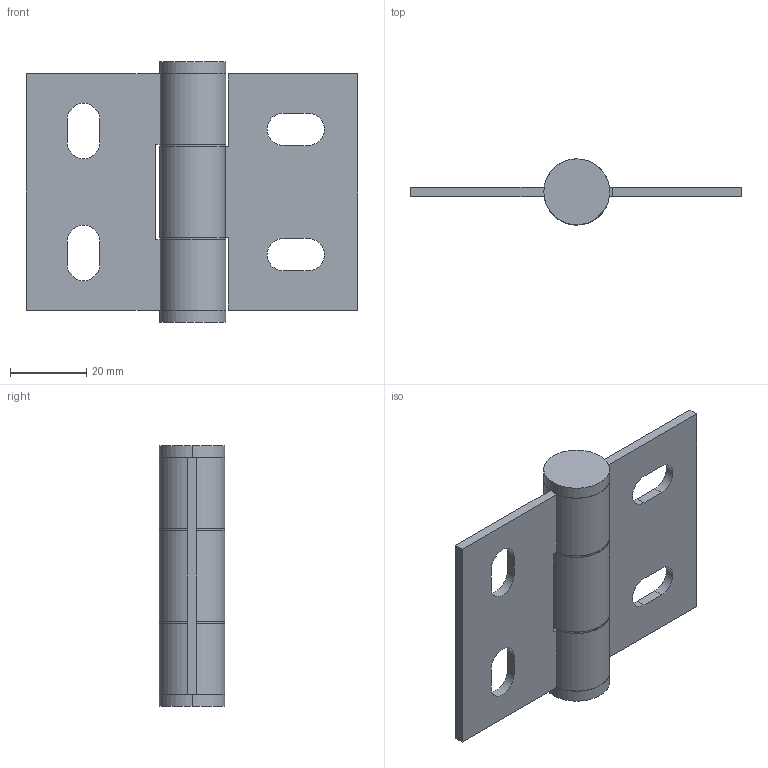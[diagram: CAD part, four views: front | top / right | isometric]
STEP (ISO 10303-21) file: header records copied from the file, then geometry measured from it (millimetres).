
FILE_DESCRIPTION (( 'STEP AP203' ), '1' );
FILE_NAME ('XG02-208.STEP', '2025-06-24T01:23:32', ( '微软用户' ), ( '微软中国' ), 'SwSTEP 2.0', 'SolidWorks 2024', '' );
FILE_SCHEMA (( 'CONFIG_CONTROL_DESIGN' ));
Length unit declared in the file: millimetre
Products named in the file (5): XG02-208; XG02-208PART2; XG02-208PART4; XG02-208PART1; XG02-208PART3
Assembly tree (5 placements, depth 2):
  XG02-208
    XG02-208PART1
    XG02-208PART2
    XG02-208PART3
    XG02-208PART4  x2
Bounding box: 87.1 x 17.3 x 68.5 mm (x, y, z)
Volume: 30493.9 mm3; surface area: 17529.5 mm2
Topology: 5 solids, 5 shells, 57 faces, 135 edges, 90 vertices
Faces by surface type: plane 33, cylinder 24
Entity records: 2138 total; most frequent: DIRECTION 295, CARTESIAN_POINT 276, ORIENTED_EDGE 258, EDGE_CURVE 129, AXIS2_PLACEMENT_3D 105, VERTEX_POINT 86, VECTOR 85, LINE 85
